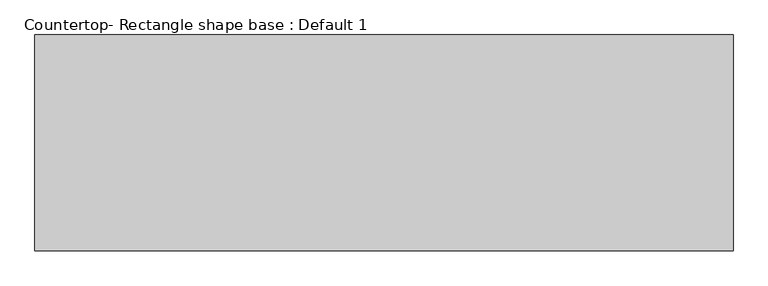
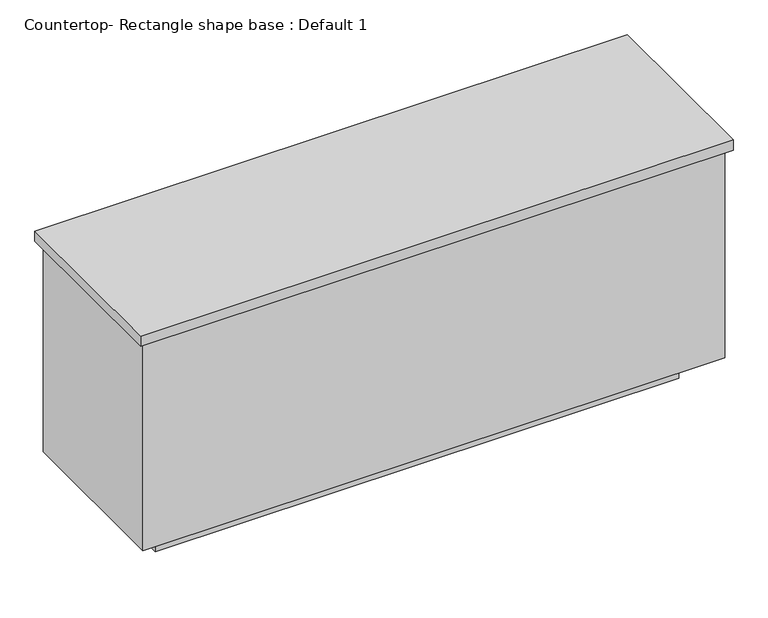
"""IFC4 building model written with IfcOpenShell, lengths in millimetres: proxy geometry, Countertop- Rectangle shape base : Default 1."""

from ifc_helpers import new_model, si_unit, frame, origin, origin_with_axes, place, context, project, spatial, polyline, outline, extrude, source, transform, mapped, element, save


def countertop_rectangle_shape_base_default_1_ba904f1b(model_context):
    return source(origin(), model_context, "Body", "SweptSolid", [
        extrude(outline(polyline([(-276.225, 60.325), (-276.225, 701.675), (1800.225, 701.675), (1800.225, 60.325), (-276.225, 60.325)])), frame((0.0, 0.0, 876.3), z_axis=(0.0, 0.0, 1.0), x_axis=(1.0, 0.0, 0.0)), (0.0, 0.0, 1.0), 38.1),
        extrude(outline(polyline([(1781.175, 682.625), (1781.175, 79.375), (-257.175, 79.375), (-257.175, 682.625), (1781.175, 682.625)])), frame((0.0, 0.0, 101.6), z_axis=(0.0, 0.0, 1.0), x_axis=(1.0, 0.0, 0.0)), (0.0, 0.0, 1.0), 774.7),
        extrude(outline(polyline([(1679.575, 581.025), (1679.575, 180.975), (-155.575, 180.975), (-155.575, 581.025), (1679.575, 581.025)])), origin_with_axes(), (0.0, 0.0, 1.0), 101.6),
    ])


if __name__ == "__main__":
    model = new_model("IFC4")
    model_context = context("Model", 3, world=origin())
    ifc_project = project(units=[si_unit("LENGTHUNIT", "METRE", prefix="MILLI")], contexts=[model_context])
    site = spatial("IfcSite", under=ifc_project)
    building = spatial("IfcBuilding", under=site)
    placement = place(None, origin())
    countertop_rectangle_shape_base_default_1_shape = countertop_rectangle_shape_base_default_1_ba904f1b(model_context)
    element("IfcBuildingElementProxy", 1, Name="Countertop- Rectangle shape base : Default 1", ObjectType="Countertop- Rectangle shape base : Default 1", at=placement, inside=building, context=model_context, shape_type="MappedRepresentation", body=[
        mapped(countertop_rectangle_shape_base_default_1_shape, transform((0.0, 0.0, 0.0), x_axis=(1.0, 0.0, 0.0), y_axis=(0.0, 1.0, 0.0), z_axis=(0.0, 0.0, 1.0))),
    ])
    save(model, "model.ifc")
